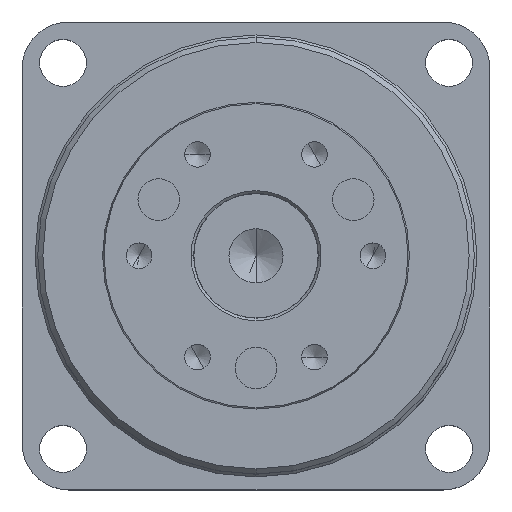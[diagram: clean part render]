
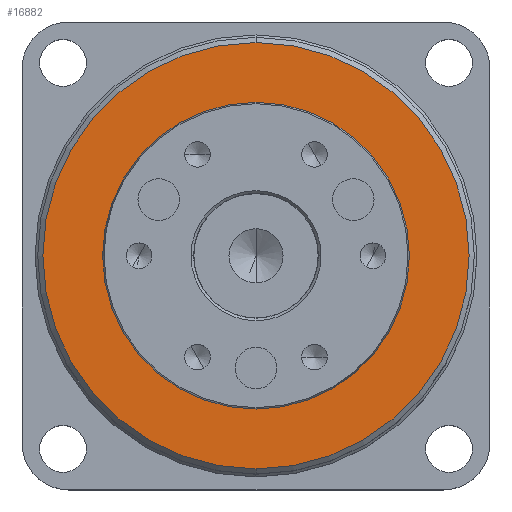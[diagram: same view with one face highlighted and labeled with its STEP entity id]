
A CAD part, top view. The second image highlights one B-rep face of the part: STEP entity #16882.
In plain terms, the highlighted planar face has unit normal (0, 0, 1).
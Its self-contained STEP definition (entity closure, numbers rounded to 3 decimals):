
#5951=CARTESIAN_POINT('',(0.,0.,26.));
#5952=DIRECTION('',(0.,0.,-1.));
#5953=DIRECTION('',(0.,1.,0.));
#5954=AXIS2_PLACEMENT_3D('',#5951,#5952,#5953);
#5956=CARTESIAN_POINT('',(0.,0.,26.));
#5957=DIRECTION('',(0.,0.,-1.));
#5958=DIRECTION('',(0.,-1.,0.));
#5959=AXIS2_PLACEMENT_3D('',#5956,#5957,#5958);
#5961=CARTESIAN_POINT('',(0.,0.,26.));
#5962=DIRECTION('',(0.,0.,1.));
#5963=DIRECTION('',(0.,-1.,0.));
#5964=AXIS2_PLACEMENT_3D('',#5961,#5962,#5963);
#5966=CARTESIAN_POINT('',(0.,0.,26.));
#5967=DIRECTION('',(0.,0.,1.));
#5968=DIRECTION('',(0.,1.,0.));
#5969=AXIS2_PLACEMENT_3D('',#5966,#5967,#5968);
#6763=CARTESIAN_POINT('',(0.,41.,26.));
#6764=VERTEX_POINT('',#6763);
#6765=CARTESIAN_POINT('',(0.,-41.,26.));
#6766=VERTEX_POINT('',#6765);
#6767=CARTESIAN_POINT('',(0.,-29.5,26.));
#6768=CARTESIAN_POINT('',(0.,29.5,26.));
#6769=VERTEX_POINT('',#6767);
#6770=VERTEX_POINT('',#6768);
#16867=CARTESIAN_POINT('',(0.,0.,26.));
#16868=DIRECTION('',(0.,0.,1.));
#16869=DIRECTION('',(0.,-1.,0.));
#16870=AXIS2_PLACEMENT_3D('',#16867,#16868,#16869);
#16871=PLANE('',#16870);
#16872=ORIENTED_EDGE('',*,*,#16862,.T.);
#16873=ORIENTED_EDGE('',*,*,#16846,.T.);
#16874=EDGE_LOOP('',(#16872,#16873));
#16875=FACE_OUTER_BOUND('',#16874,.F.);
#16877=ORIENTED_EDGE('',*,*,#16876,.T.);
#16879=ORIENTED_EDGE('',*,*,#16878,.T.);
#16880=EDGE_LOOP('',(#16877,#16879));
#16881=FACE_BOUND('',#16880,.F.);
#16882=ADVANCED_FACE('',(#16875,#16881),#16871,.T.);
#5955=CIRCLE('',#5954,41.);
#5960=CIRCLE('',#5959,41.);
#5965=CIRCLE('',#5964,29.5);
#5970=CIRCLE('',#5969,29.5);
#16846=EDGE_CURVE('',#6766,#6764,#5960,.T.);
#16862=EDGE_CURVE('',#6764,#6766,#5955,.T.);
#16876=EDGE_CURVE('',#6769,#6770,#5965,.T.);
#16878=EDGE_CURVE('',#6770,#6769,#5970,.T.);
